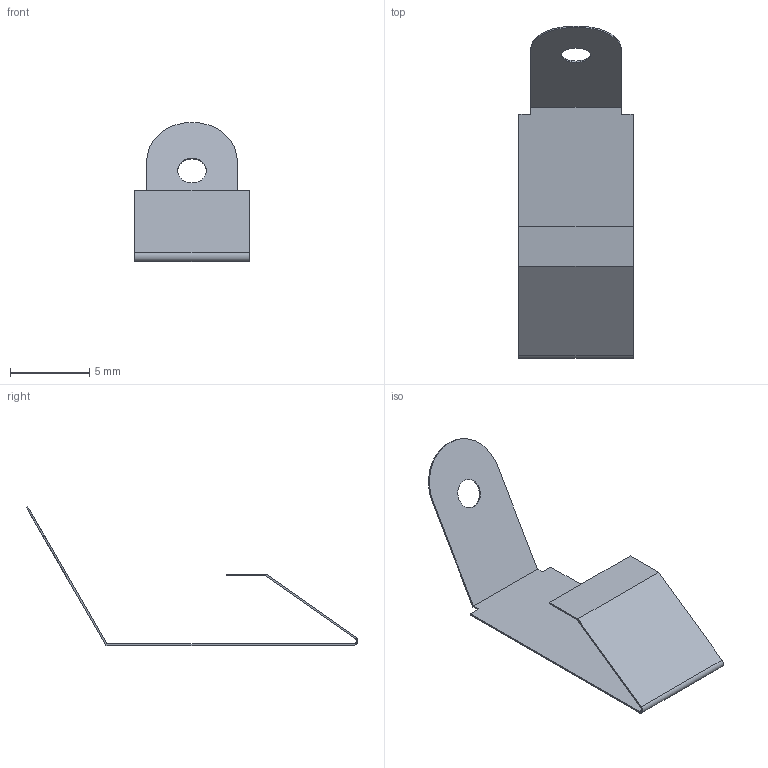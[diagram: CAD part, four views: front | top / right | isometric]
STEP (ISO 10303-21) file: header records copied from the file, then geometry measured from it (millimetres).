
FILE_DESCRIPTION (( 'STEP AP214' ), '1' );
FILE_NAME ('Conector.STEP', '2016-12-28T20:57:07', ( 'aaa' ), ( '' ), 'SwSTEP 2.0', 'SolidWorks 2013', '' );
FILE_SCHEMA (( 'AUTOMOTIVE_DESIGN' ));
Length unit declared in the file: millimetre
Products named in the file (1): Conector
Bounding box: 7.2 x 20.89 x 8.76 mm (x, y, z)
Volume: 23.5 mm3; surface area: 477.9 mm2
Topology: 1 solids, 1 shells, 22 faces, 60 edges, 40 vertices
Faces by surface type: plane 16, cylinder 6
Entity records: 734 total; most frequent: CARTESIAN_POINT 123, ORIENTED_EDGE 120, DIRECTION 118, EDGE_CURVE 60, LINE 48, VECTOR 48, VERTEX_POINT 40, AXIS2_PLACEMENT_3D 35
